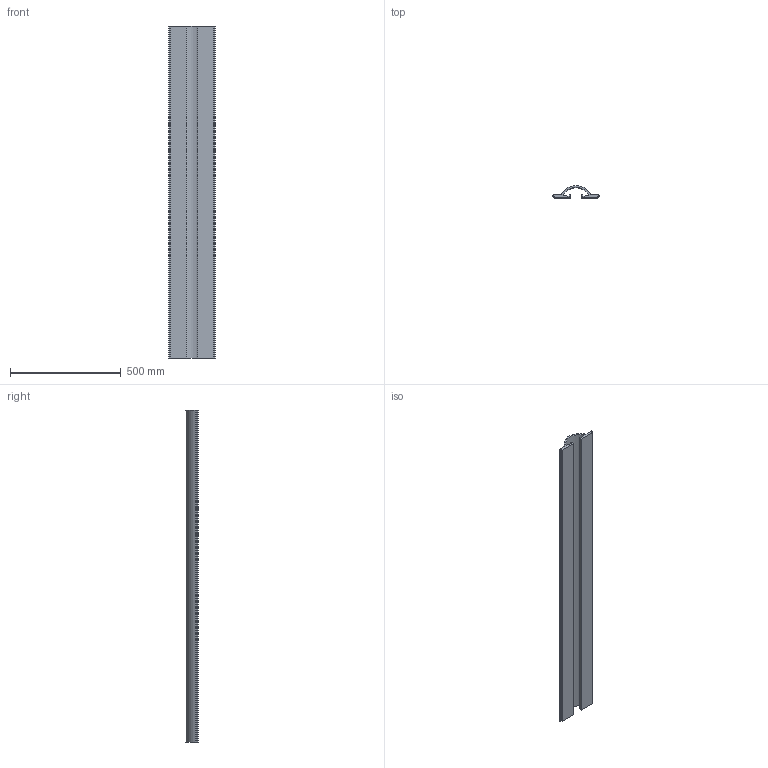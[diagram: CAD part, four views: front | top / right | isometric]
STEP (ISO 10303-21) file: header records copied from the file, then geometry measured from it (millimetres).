
FILE_DESCRIPTION (( 'STEP AP214' ), '1' );
FILE_NAME ('7000.STEP', '2017-10-12T12:43:57', ( '' ), ( '' ), 'SwSTEP 2.0', 'SolidWorks 2016', '' );
FILE_SCHEMA (( 'AUTOMOTIVE_DESIGN' ));
Length unit declared in the file: millimetre
Products named in the file (1): 7000
Bounding box: 210 x 54.72 x 1500 mm (x, y, z)
Volume: 4492288.9 mm3; surface area: 1041082 mm2
Topology: 1 solids, 1 shells, 28 faces, 78 edges, 52 vertices
Faces by surface type: plane 26, cylinder 2
Entity records: 920 total; most frequent: CARTESIAN_POINT 159, ORIENTED_EDGE 156, DIRECTION 140, EDGE_CURVE 78, LINE 74, VECTOR 74, VERTEX_POINT 52, AXIS2_PLACEMENT_3D 33
